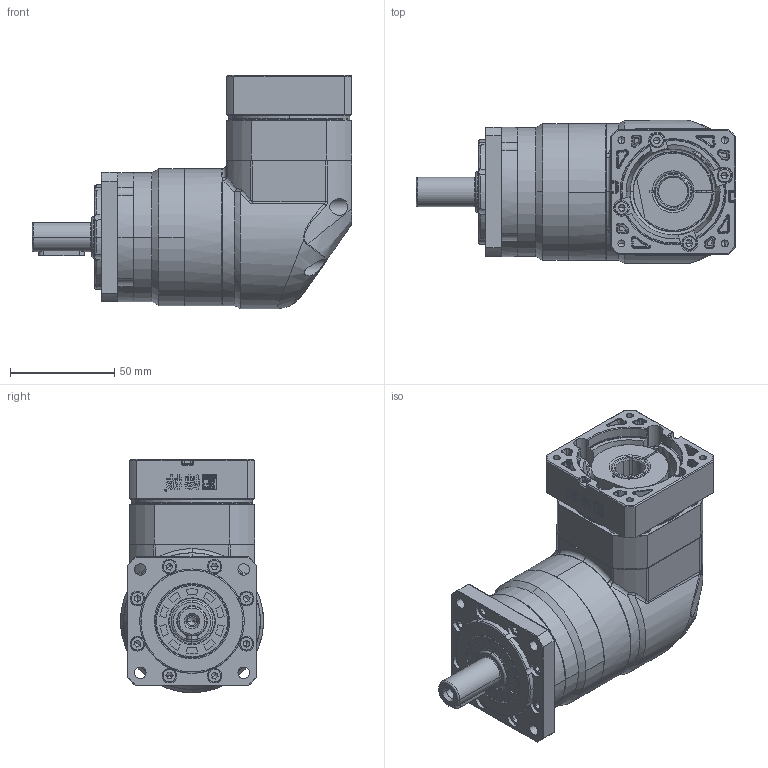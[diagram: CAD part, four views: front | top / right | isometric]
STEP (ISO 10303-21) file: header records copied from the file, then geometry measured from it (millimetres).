
FILE_DESCRIPTION (( 'STEP AP214' ), '1' );
FILE_NAME ('FBR060-L1-S2-P2 14-50-70-M4.STEP', '2021-04-23T07:10:04', ( 'Microsoft' ), ( 'Microsoft China' ), 'SwSTEP 2.0', 'SolidWorks 2016', '' );
FILE_SCHEMA (( 'AUTOMOTIVE_DESIGN' ));
Length unit declared in the file: millimetre
Products named in the file (14): hexagon socket head cap screws gb_GB_FASTENER_SCREWS_HSHCS M4X16-N_1; 输入太阳齿轮060D-14; 珨撰眻褒眊极FBR064D-5.27; 2-输入端壳体FBR060D.; 9-怀堤傷褲极FBRR064D_1; 坶踡遠18-37-12(1); 11-输入法兰FBR060D-50-70-M4; FBR060-L1-S2-P2 14-50-70-M4; 8-怀堤傷褲极FBR060_1; A倰す瑩5-22_1; 蚐猾20355; FBR060D怀堤俴陎殤-14粣; FBR060齿圈_1; hex socket set screws with cone point gb_GB_FASTENER_SCREWS_HSCP M10X10-N
Assembly tree (25 placements, depth 2):
  FBR060-L1-S2-P2 14-50-70-M4
    11-输入法兰FBR060D-50-70-M4
    坶踡遠18-37-12(1)
    9-怀堤傷褲极FBRR064D_1
    2-输入端壳体FBR060D.
    珨撰眻褒眊极FBR064D-5.27
    输入太阳齿轮060D-14
    hexagon socket head cap screws gb_GB_FASTENER_SCREWS_HSHCS M4X16-N_1  x13
    hex socket set screws with cone point gb_GB_FASTENER_SCREWS_HSCP M10X10-N
    FBR060齿圈_1
    FBR060D怀堤俴陎殤-14粣
    蚐猾20355
    A倰す瑩5-22_1
    8-怀堤傷褲极FBR060_1
Bounding box: 153 x 68.5 x 111.75 mm (x, y, z)
Volume: 532121.3 mm3; surface area: 115222.5 mm2
Topology: 26 solids, 26 shells, 1707 faces, 4262 edges, 2639 vertices
Faces by surface type: plane 674, cylinder 413, bspline 333, cone 243, torus 44
Entity records: 72218 total; most frequent: CARTESIAN_POINT 24022, ORIENTED_EDGE 7070, DIRECTION 6071, EDGE_CURVE 3535, VERTEX_POINT 2243, AXIS2_PLACEMENT_3D 2211, VECTOR 1649, LINE 1649
